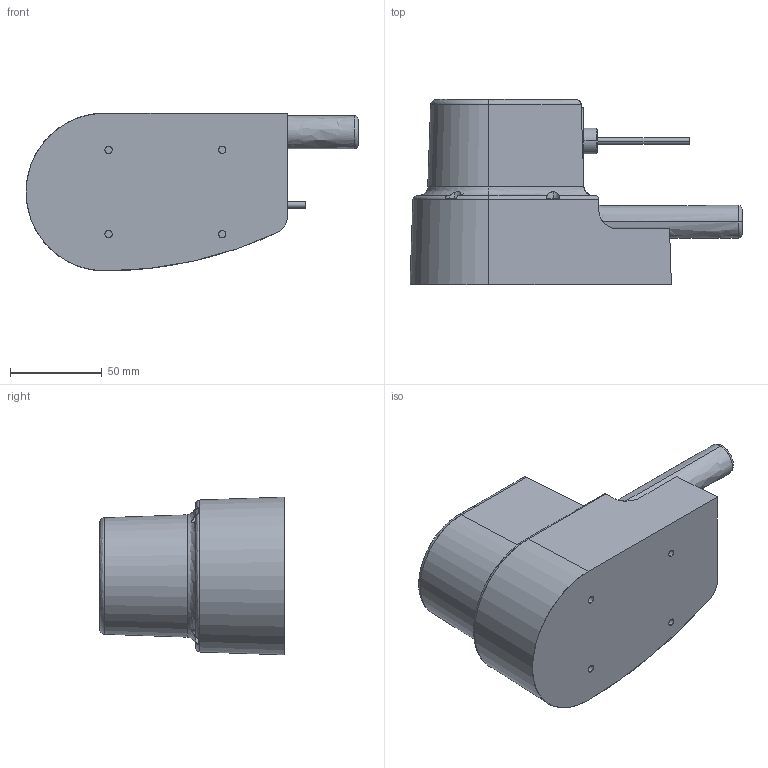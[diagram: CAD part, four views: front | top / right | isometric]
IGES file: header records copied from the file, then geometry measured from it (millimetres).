
Start section: SolidWorks IGES file using analytic representation for surfaces
Bounding box: 181 x 100.8 x 86 mm (x, y, z)
Surface area: 56422.2 mm2 (no closed solid volume)
Topology: 0 solids, 0 shells, 136 faces, 2591 edges, 2591 vertices
Faces by surface type: bspline 76, revolution 60
